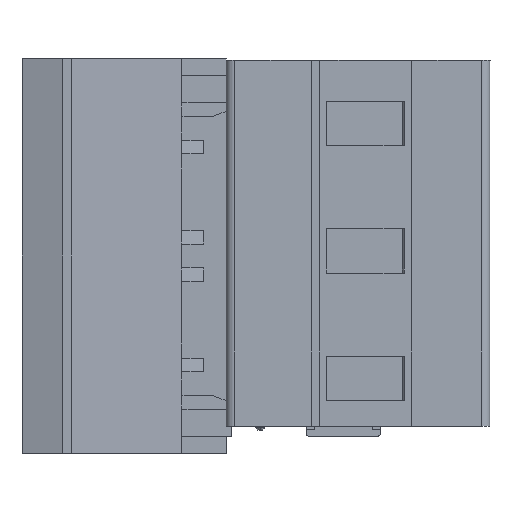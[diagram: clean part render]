
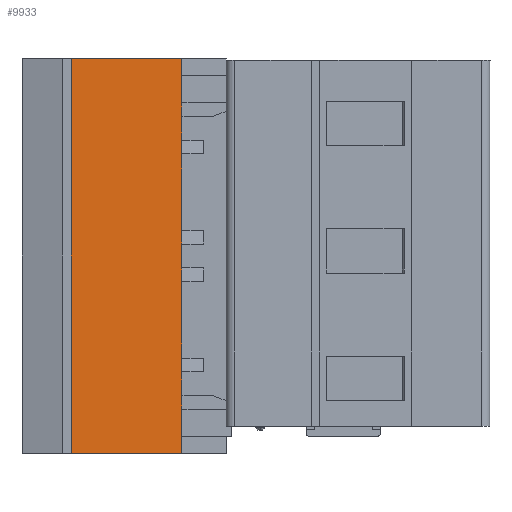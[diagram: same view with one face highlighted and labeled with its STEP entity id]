
A CAD part, left-side view. The second image highlights one B-rep face of the part: STEP entity #9933.
In plain terms, the highlighted planar face has unit normal (-0.998, -0.061, 0).
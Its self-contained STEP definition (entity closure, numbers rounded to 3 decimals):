
#312=DIRECTION('',(0.,0.,-1.));
#313=VECTOR('',#312,1.4);
#314=CARTESIAN_POINT('',(7.,18.1,-18.3));
#315=LINE('',#314,#313);
#316=DIRECTION('',(0.,0.,-1.));
#317=VECTOR('',#316,0.8);
#318=CARTESIAN_POINT('',(7.,18.1,-19.7));
#319=LINE('',#318,#317);
#320=DIRECTION('',(0.,0.,-1.));
#321=VECTOR('',#320,2.6);
#322=CARTESIAN_POINT('',(7.,18.1,-20.5));
#323=LINE('',#322,#321);
#324=DIRECTION('',(0.,0.,1.));
#325=VECTOR('',#324,23.2);
#326=CARTESIAN_POINT('',(6.6,24.6,-23.1));
#327=LINE('',#326,#325);
#328=DIRECTION('',(0.,0.,-1.));
#329=VECTOR('',#328,2.6);
#330=CARTESIAN_POINT('',(7.,18.1,0.1));
#331=LINE('',#330,#329);
#332=DIRECTION('',(0.,0.,-1.));
#333=VECTOR('',#332,0.8);
#334=CARTESIAN_POINT('',(7.,18.1,-2.5));
#335=LINE('',#334,#333);
#336=DIRECTION('',(0.,0.,-1.));
#337=VECTOR('',#336,1.4);
#338=CARTESIAN_POINT('',(7.,18.1,-3.3));
#339=LINE('',#338,#337);
#340=DIRECTION('',(0.,0.,-1.));
#341=VECTOR('',#340,4.5);
#342=CARTESIAN_POINT('',(7.,18.1,-5.5));
#343=LINE('',#342,#341);
#344=DIRECTION('',(0.,0.,-1.));
#345=VECTOR('',#344,1.4);
#346=CARTESIAN_POINT('',(7.,18.1,-10.8));
#347=LINE('',#346,#345);
#348=DIRECTION('',(0.,0.,-1.));
#349=VECTOR('',#348,4.5);
#350=CARTESIAN_POINT('',(7.,18.1,-13.));
#351=LINE('',#350,#349);
#1169=DIRECTION('',(-0.061,0.998,0.));
#1170=VECTOR('',#1169,6.512);
#1171=CARTESIAN_POINT('',(7.,18.1,0.1));
#1172=LINE('',#1171,#1170);
#3458=DIRECTION('',(0.061,-0.998,0.));
#3459=VECTOR('',#3458,6.512);
#3460=CARTESIAN_POINT('',(6.6,24.6,-23.1));
#3461=LINE('',#3460,#3459);
#4588=DIRECTION('',(0.,0.,1.));
#4589=VECTOR('',#4588,0.8);
#4590=CARTESIAN_POINT('',(7.,18.1,-5.5));
#4591=LINE('',#4590,#4589);
#4624=DIRECTION('',(0.,0.,1.));
#4625=VECTOR('',#4624,0.8);
#4626=CARTESIAN_POINT('',(7.,18.1,-10.8));
#4627=LINE('',#4626,#4625);
#4732=DIRECTION('',(0.,0.,1.));
#4733=VECTOR('',#4732,0.8);
#4734=CARTESIAN_POINT('',(7.,18.1,-13.));
#4735=LINE('',#4734,#4733);
#4768=DIRECTION('',(0.,0.,1.));
#4769=VECTOR('',#4768,0.8);
#4770=CARTESIAN_POINT('',(7.,18.1,-18.3));
#4771=LINE('',#4770,#4769);
#7583=CARTESIAN_POINT('',(7.,18.1,-2.5));
#7584=CARTESIAN_POINT('',(7.,18.1,-3.3));
#7585=VERTEX_POINT('',#7583);
#7586=VERTEX_POINT('',#7584);
#7587=CARTESIAN_POINT('',(7.,18.1,-18.3));
#7588=CARTESIAN_POINT('',(7.,18.1,-19.7));
#7589=VERTEX_POINT('',#7587);
#7590=VERTEX_POINT('',#7588);
#7591=CARTESIAN_POINT('',(7.,18.1,-20.5));
#7592=VERTEX_POINT('',#7591);
#7593=CARTESIAN_POINT('',(7.,18.1,-23.1));
#7594=VERTEX_POINT('',#7593);
#7595=CARTESIAN_POINT('',(6.6,24.6,-23.1));
#7596=VERTEX_POINT('',#7595);
#7597=CARTESIAN_POINT('',(6.6,24.6,0.1));
#7598=VERTEX_POINT('',#7597);
#7599=CARTESIAN_POINT('',(7.,18.1,0.1));
#7600=VERTEX_POINT('',#7599);
#7601=CARTESIAN_POINT('',(7.,18.1,-4.7));
#7602=VERTEX_POINT('',#7601);
#7603=CARTESIAN_POINT('',(7.,18.1,-5.5));
#7604=VERTEX_POINT('',#7603);
#7605=CARTESIAN_POINT('',(7.,18.1,-10.));
#7606=VERTEX_POINT('',#7605);
#7607=CARTESIAN_POINT('',(7.,18.1,-10.8));
#7608=VERTEX_POINT('',#7607);
#7609=CARTESIAN_POINT('',(7.,18.1,-12.2));
#7610=VERTEX_POINT('',#7609);
#7611=CARTESIAN_POINT('',(7.,18.1,-13.));
#7612=VERTEX_POINT('',#7611);
#7613=CARTESIAN_POINT('',(7.,18.1,-17.5));
#7614=VERTEX_POINT('',#7613);
#9895=CARTESIAN_POINT('',(6.8,21.35,-34.6));
#9896=DIRECTION('',(0.998,0.061,0.));
#9897=DIRECTION('',(0.061,-0.998,0.));
#9898=AXIS2_PLACEMENT_3D('',#9895,#9896,#9897);
#9899=PLANE('',#9898);
#9901=ORIENTED_EDGE('',*,*,#9900,.T.);
#9903=ORIENTED_EDGE('',*,*,#9902,.T.);
#9905=ORIENTED_EDGE('',*,*,#9904,.T.);
#9907=ORIENTED_EDGE('',*,*,#9906,.F.);
#9908=ORIENTED_EDGE('',*,*,#9885,.T.);
#9910=ORIENTED_EDGE('',*,*,#9909,.F.);
#9912=ORIENTED_EDGE('',*,*,#9911,.T.);
#9914=ORIENTED_EDGE('',*,*,#9913,.T.);
#9916=ORIENTED_EDGE('',*,*,#9915,.T.);
#9918=ORIENTED_EDGE('',*,*,#9917,.F.);
#9920=ORIENTED_EDGE('',*,*,#9919,.T.);
#9922=ORIENTED_EDGE('',*,*,#9921,.F.);
#9924=ORIENTED_EDGE('',*,*,#9923,.T.);
#9926=ORIENTED_EDGE('',*,*,#9925,.F.);
#9928=ORIENTED_EDGE('',*,*,#9927,.T.);
#9930=ORIENTED_EDGE('',*,*,#9929,.F.);
#9931=EDGE_LOOP('',(#9901,#9903,#9905,#9907,#9908,#9910,#9912,#9914,#9916,#9918,
#9920,#9922,#9924,#9926,#9928,#9930));
#9932=FACE_OUTER_BOUND('',#9931,.F.);
#9933=ADVANCED_FACE('',(#9932),#9899,.F.);
#9885=EDGE_CURVE('',#7596,#7598,#327,.T.);
#9900=EDGE_CURVE('',#7589,#7590,#315,.T.);
#9902=EDGE_CURVE('',#7590,#7592,#319,.T.);
#9904=EDGE_CURVE('',#7592,#7594,#323,.T.);
#9906=EDGE_CURVE('',#7596,#7594,#3461,.T.);
#9909=EDGE_CURVE('',#7600,#7598,#1172,.T.);
#9911=EDGE_CURVE('',#7600,#7585,#331,.T.);
#9913=EDGE_CURVE('',#7585,#7586,#335,.T.);
#9915=EDGE_CURVE('',#7586,#7602,#339,.T.);
#9917=EDGE_CURVE('',#7604,#7602,#4591,.T.);
#9919=EDGE_CURVE('',#7604,#7606,#343,.T.);
#9921=EDGE_CURVE('',#7608,#7606,#4627,.T.);
#9923=EDGE_CURVE('',#7608,#7610,#347,.T.);
#9925=EDGE_CURVE('',#7612,#7610,#4735,.T.);
#9927=EDGE_CURVE('',#7612,#7614,#351,.T.);
#9929=EDGE_CURVE('',#7589,#7614,#4771,.T.);
